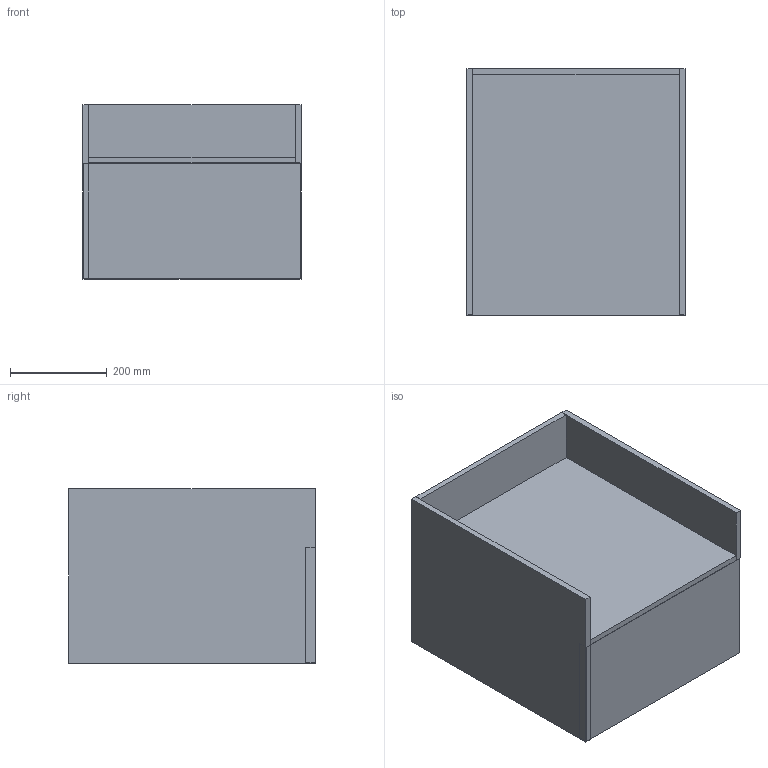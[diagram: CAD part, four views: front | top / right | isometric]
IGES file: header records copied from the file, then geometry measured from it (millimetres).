
Start section: Data from Parasolid IGES Translator 19.0.9, Copyright(c) 2006 Siemens PL M Software. All Rights Reserved.
Global section: file name: noorth-SI-H 36 D 51 W 46,2_9003.igs; native system: By Siemens PLM Incorporated; preprocessor: XPlus GENERIC/IGES 19.0.9; author: Noname; organization: Noname; date: 20200601.100148; units: metre
Bounding box: 450.01 x 508 x 360 mm (x, y, z)
Volume: 16782336.7 mm3; surface area: 2637254.5 mm2
Topology: 9 solids, 9 shells, 54 faces, 108 edges, 72 vertices
Faces by surface type: plane 54
